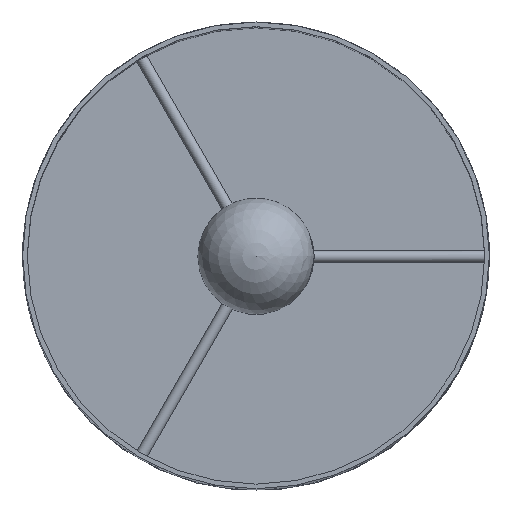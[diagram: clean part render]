
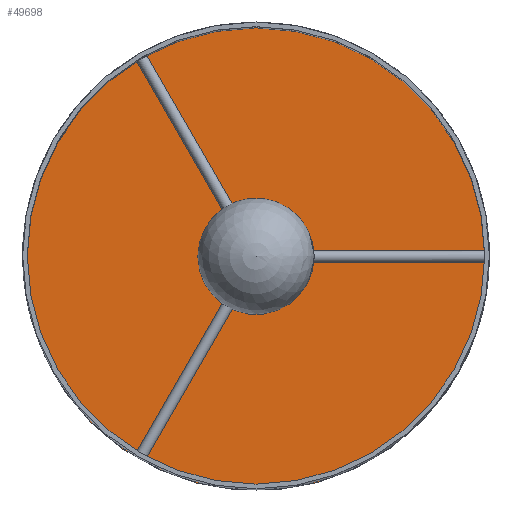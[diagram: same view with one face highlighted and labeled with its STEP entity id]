
A CAD part, top view. The second image highlights one B-rep face of the part: STEP entity #49698.
In plain terms, the highlighted planar face has unit normal (0, 0, 1).
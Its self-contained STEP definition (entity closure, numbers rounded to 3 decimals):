
#11802=PLANE('',#54501);
#13002=FACE_BOUND('',#18954,.T.);
#15378=FACE_OUTER_BOUND('',#18953,.T.);
#18953=EDGE_LOOP('',(#47288));
#18954=EDGE_LOOP('',(#47289));
#21321=CIRCLE('',#54495,5.);
#21322=CIRCLE('',#54498,100.);
#26048=VERTEX_POINT('',#83081);
#26049=VERTEX_POINT('',#83085);
#33127=EDGE_CURVE('',#26048,#26048,#21321,.T.);
#33128=EDGE_CURVE('',#26049,#26049,#21322,.T.);
#47288=ORIENTED_EDGE('',*,*,#33128,.T.);
#47289=ORIENTED_EDGE('',*,*,#33127,.T.);
#49698=ADVANCED_FACE('',(#15378,#13002),#11802,.T.);
#54495=AXIS2_PLACEMENT_3D('',#83082,#68690,#68691);
#54498=AXIS2_PLACEMENT_3D('',#83086,#68696,#68697);
#54501=AXIS2_PLACEMENT_3D('',#83090,#68702,#68703);
#68690=DIRECTION('center_axis',(0.,0.,-1.));
#68691=DIRECTION('ref_axis',(-1.,0.,0.));
#68696=DIRECTION('center_axis',(0.,0.,1.));
#68697=DIRECTION('ref_axis',(-1.,0.,0.));
#68702=DIRECTION('center_axis',(0.,0.,1.));
#68703=DIRECTION('ref_axis',(1.,0.,0.));
#83081=CARTESIAN_POINT('',(5.,0.,10.));
#83082=CARTESIAN_POINT('Origin',(0.,0.,10.));
#83085=CARTESIAN_POINT('',(100.,0.,10.));
#83086=CARTESIAN_POINT('Origin',(0.,0.,10.));
#83090=CARTESIAN_POINT('Origin',(0.,0.,10.));
